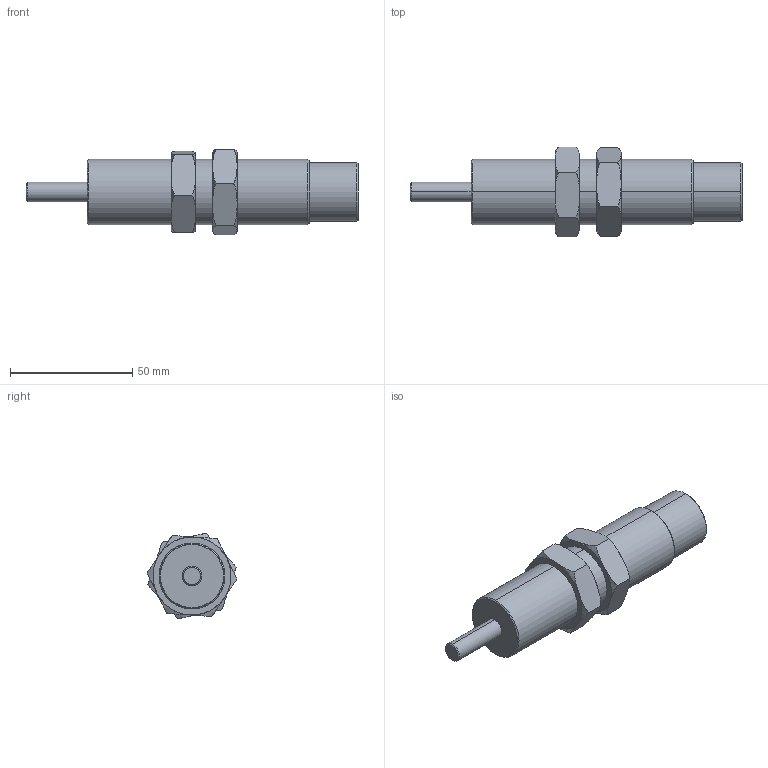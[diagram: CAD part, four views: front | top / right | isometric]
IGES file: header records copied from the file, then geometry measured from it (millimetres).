
Start section: SolidWorks IGES file using analytic representation for surfaces
Global section: file name: C:\Users\Sam Lin\Desktop\48\FSA-2725BB(CC)(CD).IGS; native system: SolidWorks 2013; preprocessor: SolidWorks 2013; author: Sam Lin; date: 160317.152925; units: metre
Bounding box: 136 x 36.86 x 35.04 mm (x, y, z)
Surface area: 15955.9 mm2 (no closed solid volume)
Topology: 0 solids, 0 shells, 62 faces, 1160 edges, 1160 vertices
Faces by surface type: bspline 44, revolution 18
